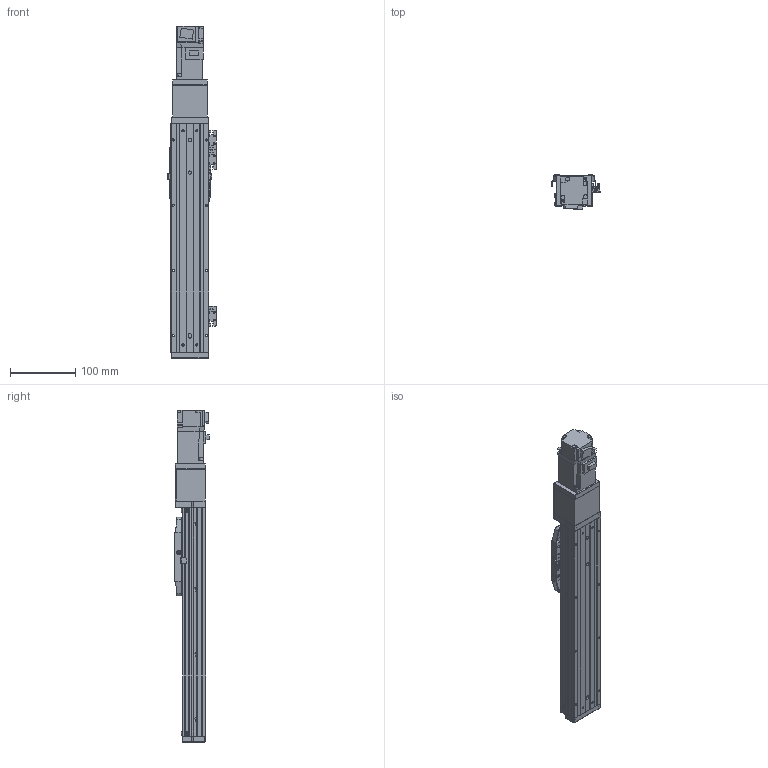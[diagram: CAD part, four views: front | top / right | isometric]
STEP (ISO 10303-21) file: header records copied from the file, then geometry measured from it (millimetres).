
FILE_DESCRIPTION (( 'STEP AP203' ), '1' );
FILE_NAME ('CTHA50-200-BC-M10-C4L.STEP', '2022-09-28T08:37:05', ( '微软用户' ), ( '微软中国' ), 'SwSTEP 2.0', 'SolidWorks 2020', '' );
FILE_SCHEMA (( 'CONFIG_CONTROL_DESIGN' ));
Length unit declared in the file: millimetre
Products named in the file (20): EE_SX911P_R; CTHA50-027; CTHA50-031; GBT77-2000 M3×3; CTHA50-006-2_CTHA60-006-2; CTHA50-200-BC-M10-C4L; GBT 70.1-M3℅6; CTHA50-013; KTHA50-001_350; CTHA60-017; HG-KR13（三菱）; KTHA50-004; GBT 70.1-M4×12; GBT 70.3-M3℅6; KTHA50-005; CTHA60-016; CTHA50-002; GB¨uT 70.2-M3¡Á6_M3¡Á6; CTHA60-021; CTHA50-030
Assembly tree (59 placements, depth 2):
  CTHA50-200-BC-M10-C4L
    KTHA50-001_350
    KTHA50-004
    KTHA50-005
    GB¨uT 70.2-M3¡Á6_M3¡Á6  x10
    EE_SX911P_R  x3
    GBT77-2000 M3×3  x6
    GBT 70.1-M3℅6  x6
    CTHA60-017  x3
    GBT 70.1-M4×12  x10
    CTHA60-016  x2
    CTHA60-021  x2
    CTHA50-027
    CTHA50-006-2_CTHA60-006-2
    CTHA50-013
    HG-KR13（三菱）
    GBT 70.3-M3℅6  x6
    CTHA50-002
    CTHA50-030  x2
    CTHA50-031
Bounding box: 74.12 x 53.3 x 508.6 mm (x, y, z)
Volume: 870403.5 mm3; surface area: 244258.3 mm2
Topology: 61 solids, 61 shells, 2376 faces, 5626 edges, 3438 vertices
Faces by surface type: plane 1366, cylinder 532, cone 358, torus 96, sphere 24
Entity records: 38052 total; most frequent: CARTESIAN_POINT 6115, DIRECTION 6080, ORIENTED_EDGE 5820, EDGE_CURVE 2910, VECTOR 2120, LINE 2120, AXIS2_PLACEMENT_3D 1980, VERTEX_POINT 1831
